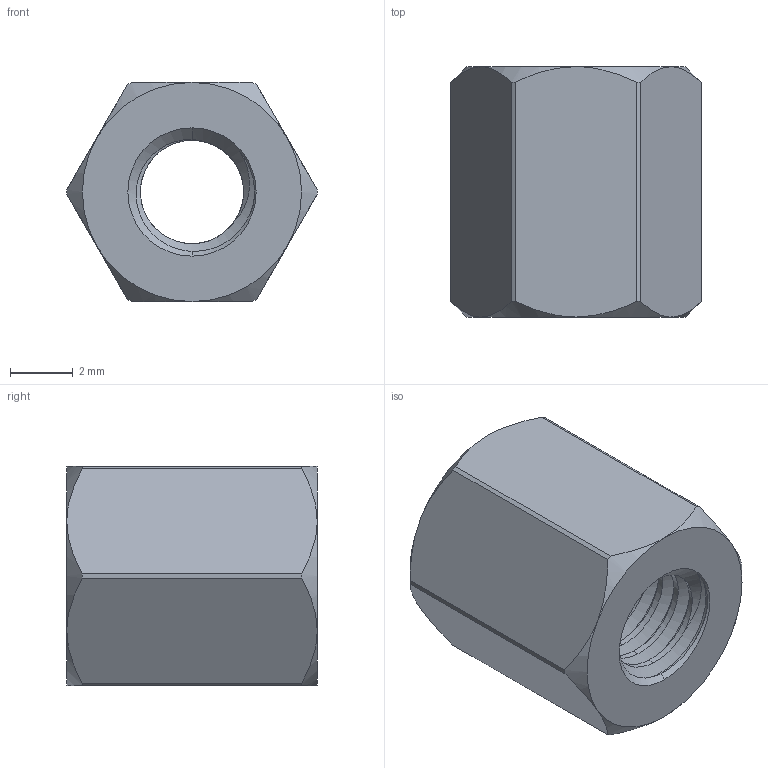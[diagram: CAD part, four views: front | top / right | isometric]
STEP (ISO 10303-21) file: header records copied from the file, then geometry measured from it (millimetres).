
FILE_DESCRIPTION (( 'STEP AP203' ), '1' );
FILE_NAME ('1516-4008-0080.STEP', '2021-04-22T13:55:48', ( '' ), ( '' ), 'SwSTEP 2.0', 'SolidWorks 2016', '' );
FILE_SCHEMA (( 'CONFIG_CONTROL_DESIGN' ));
Length unit declared in the file: millimetre
Products named in the file (1): 1516-4008-0080
Bounding box: 8 x 8 x 7 mm (x, y, z)
Volume: 255.7 mm3; surface area: 389.2 mm2
Topology: 1 solids, 1 shells, 79 faces, 218 edges, 141 vertices
Faces by surface type: cylinder 52, cone 17, plane 8, bspline 2
Entity records: 5326 total; most frequent: CARTESIAN_POINT 3543, ORIENTED_EDGE 436, DIRECTION 287, EDGE_CURVE 218, VERTEX_POINT 141, AXIS2_PLACEMENT_3D 113, EDGE_LOOP 81, FACE_OUTER_BOUND 79
